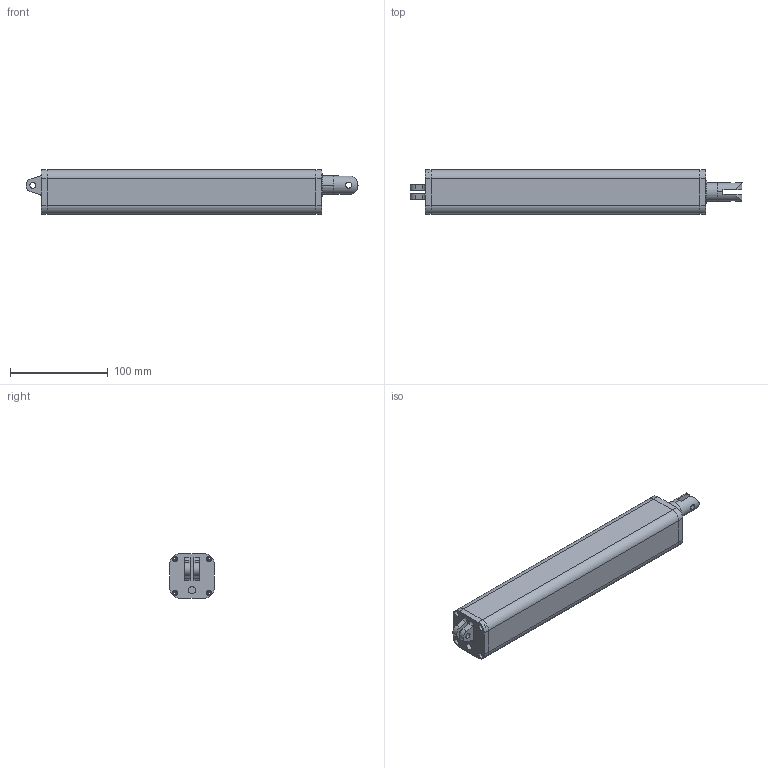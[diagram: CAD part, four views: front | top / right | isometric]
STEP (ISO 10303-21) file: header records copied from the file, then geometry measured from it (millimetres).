
FILE_DESCRIPTION((''),'2;1');
FILE_NAME('LAS4-S100_ASM','2007-07-11T',('amyliao'),(''),'PRO/ENGINEER BY PARAMETRIC TECHNOLOGY CORPORATION, 2003210','PRO/ENGINEER BY PARAMETRIC TECHNOLOGY CORPORATION, 2003210','');
FILE_SCHEMA(('CONFIG_CONTROL_DESIGN'));
Length unit declared in the file: millimetre
Products named in the file (7): OUT-TUBE; BACK-FIX; T1; T2; LAF-IN-TUBE; T3; LAS4-S100_ASM
Assembly tree (6 placements, depth 2):
  LAS4-S100_ASM
    OUT-TUBE
    BACK-FIX
    T1
    T2
    LAF-IN-TUBE
    T3
Bounding box: 338.85 x 45 x 45 mm (x, y, z)
Volume: 163174.4 mm3; surface area: 167137 mm2
Topology: 6 solids, 6 shells, 139 faces, 354 edges, 236 vertices
Faces by surface type: cylinder 83, plane 56
Entity records: 4641 total; most frequent: CARTESIAN_POINT 852, DIRECTION 814, ORIENTED_EDGE 708, EDGE_CURVE 354, AXIS2_PLACEMENT_3D 314, VERTEX_POINT 236, EDGE_LOOP 192, VECTOR 186
